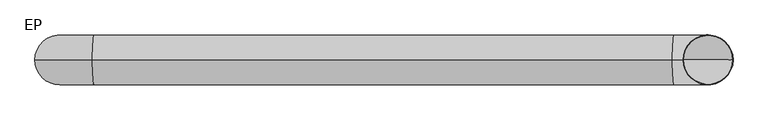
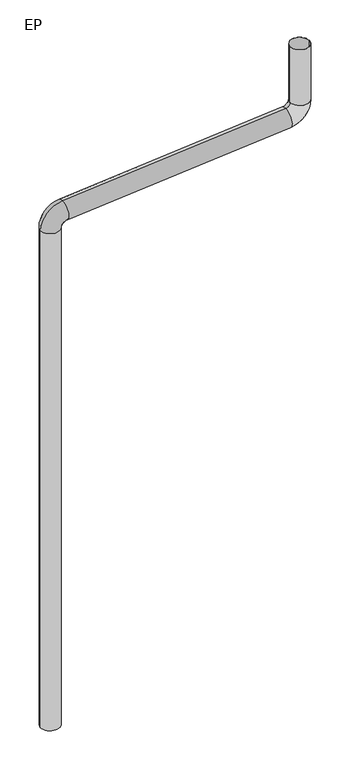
"""IFC4 building model written with IfcOpenShell, lengths in millimetres: flow terminal geometry, Descente Eau pluviale : EP."""

from ifc_helpers import new_model, si_unit, point, frame, origin, place, context, project, spatial, polyline, circle_curve, ellipse_curve, trimmed, source, transform, mapped, element, save
from ifc_brep_helpers import plane_surface, cylinder_surface, revolved_surface, advanced_brep


def ep_bece9a1e(model_context):
    return source(origin(), model_context, "Body", "AdvancedBrep", [
        advanced_brep(
        [(40.0, 300.0, 870000.0), (-40.0, 300.0, 870000.0), (39.0, 300.0, 870000.0), (-39.0, 300.0, 870000.0), (-40.0, 300.0, 872184.9680596), (40.0, 300.0, 872184.9680596), (-39.0, 300.0, 872184.9680596), (39.0, 300.0, 872184.9680596), (51.3783769, 300.0, 872284.5957044), (58.2756754, 300.0, 872204.8935886), (51.4645931, 300.0, 872283.599428), (58.1894591, 300.0, 872205.889865), (981.7243246, 300.0, 872365.1064114), (988.6216231, 300.0, 872285.4042956), (981.8105409, 300.0, 872364.110135), (988.5354069, 300.0, 872286.400572), (1000.0, 300.0, 872385.0319404), (1080.0, 300.0, 872385.0319404), (1001.0, 300.0, 872385.0319404), (1079.0, 300.0, 872385.0319404), (1080.0, 300.0, 872630.0), (1000.0, 300.0, 872630.0), (1079.0, 300.0, 872630.0), (1001.0, 300.0, 872630.0)],
        [
            (0, 1, circle_curve(frame((0.0, 300.0, 870000.0), z_axis=(0.0, 0.0, -1.0), x_axis=(-1.0, 0.0, 0.0)), 40.0)),
            (1, 0, circle_curve(frame((0.0, 300.0, 870000.0), z_axis=(0.0, 0.0, -1.0), x_axis=(-1.0, 0.0, 0.0)), 40.0)),
            (2, 3, circle_curve(frame((0.0, 300.0, 870000.0), z_axis=(0.0, 0.0, 1.0), x_axis=(-1.0, 0.0, 0.0)), 39.0)),
            (3, 2, circle_curve(frame((0.0, 300.0, 870000.0), z_axis=(0.0, 0.0, 1.0), x_axis=(-1.0, 0.0, 0.0)), 39.0)),
            (1, 4),
            (4, 5, circle_curve(frame((0.0, 300.0, 872184.9680596), z_axis=(0.0, 0.0, -1.0), x_axis=(-1.0, 0.0, 0.0)), 40.0)),
            (5, 0),
            (5, 4, circle_curve(frame((0.0, 300.0, 872184.9680596), z_axis=(0.0, 0.0, -1.0), x_axis=(-1.0, 0.0, 0.0)), 40.0)),
            (3, 6),
            (6, 7, circle_curve(frame((0.0, 300.0, 872184.9680596), z_axis=(0.0, 0.0, 1.0), x_axis=(-1.0, 0.0, 0.0)), 39.0)),
            (7, 2),
            (7, 6, circle_curve(frame((0.0, 300.0, 872184.9680596), z_axis=(0.0, 0.0, 1.0), x_axis=(-1.0, 0.0, 0.0)), 39.0)),
            (8, 9, circle_curve(frame((54.8270261, 300.0, 872244.7446465), z_axis=(-0.9962764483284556, 0.0, -0.08621623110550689), x_axis=(-0.08621623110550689, 0.0, 0.9962764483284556)), 40.0)),
            (9, 5, circle_curve(frame((60.0, 300.0, 872184.9680596), z_axis=(0.0, -1.0, 0.0), x_axis=(-1.0, 0.0, 0.0)), 20.0)),
            (4, 8, circle_curve(frame((60.0, 300.0, 872184.9680596), z_axis=(0.0, 1.0, 0.0), x_axis=(-1.0, 0.0, 0.0)), 100.0)),
            (9, 8, circle_curve(frame((54.8270261, 300.0, 872244.7446465), z_axis=(-0.9962764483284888, 0.0, -0.08621623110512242), x_axis=(-0.08621623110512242, 0.0, 0.9962764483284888)), 40.0)),
            (10, 11, circle_curve(frame((54.8270261, 300.0, 872244.7446465), z_axis=(0.996276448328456, 0.0, 0.08621623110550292), x_axis=(-0.08621623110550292, 0.0, 0.996276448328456)), 39.0)),
            (11, 7, circle_curve(frame((60.0, 300.0, 872184.9680596), z_axis=(0.0, -1.0, 0.0), x_axis=(-1.0, 0.0, 0.0)), 21.0)),
            (6, 10, circle_curve(frame((60.0, 300.0, 872184.9680596), z_axis=(0.0, 1.0, 0.0), x_axis=(-1.0, 0.0, 0.0)), 99.0)),
            (11, 10, circle_curve(frame((54.8270261, 300.0, 872244.7446465), z_axis=(0.9962764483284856, 0.0, 0.08621623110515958), x_axis=(-0.08621623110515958, 0.0, 0.9962764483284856)), 39.0)),
            (8, 12),
            (12, 13, circle_curve(frame((985.1729739, 300.0, 872325.2553535), z_axis=(-0.996276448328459, 0.0, -0.08621623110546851), x_axis=(-0.08621623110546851, 0.0, 0.996276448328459)), 40.0)),
            (13, 9),
            (13, 12, circle_curve(frame((985.1729739, 300.0, 872325.2553535), z_axis=(-0.996276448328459, 0.0, -0.08621623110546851), x_axis=(-0.08621623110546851, 0.0, 0.996276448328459)), 40.0)),
            (10, 14),
            (14, 15, circle_curve(frame((985.1729739, 300.0, 872325.2553535), z_axis=(0.996276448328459, 0.0, 0.08621623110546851), x_axis=(-0.08621623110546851, 0.0, 0.996276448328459)), 39.0)),
            (15, 11),
            (15, 14, circle_curve(frame((985.1729739, 300.0, 872325.2553535), z_axis=(0.996276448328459, 0.0, 0.08621623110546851), x_axis=(-0.08621623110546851, 0.0, 0.996276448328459)), 39.0)),
            (16, 17, circle_curve(frame((1040.0, 300.0, 872385.0319404), z_axis=(0.0, 0.0, -1.0), x_axis=(-1.0, 0.0, 0.0)), 40.0)),
            (17, 13, circle_curve(frame((980.0, 300.0, 872385.0319404), z_axis=(0.0, 1.0, 0.0), x_axis=(0.08621623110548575, 0.0, -0.9962764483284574)), 100.0)),
            (12, 16, circle_curve(frame((980.0, 300.0, 872385.0319404), z_axis=(0.0, -1.0, 0.0), x_axis=(0.08621623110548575, 0.0, -0.9962764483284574)), 20.0)),
            (17, 16, circle_curve(frame((1040.0, 300.0, 872385.0319404), z_axis=(0.0, 0.0, -1.0), x_axis=(-1.0, 0.0, 0.0)), 40.0)),
            (18, 19, circle_curve(frame((1040.0, 300.0, 872385.0319404), z_axis=(2.2726404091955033e-12, 0.0, 1.0), x_axis=(-1.0, 0.0, 2.2726404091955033e-12)), 39.0)),
            (19, 15, circle_curve(frame((980.0, 300.0, 872385.0319404), z_axis=(0.0, 1.0, 0.0), x_axis=(0.08621623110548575, 0.0, -0.9962764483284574)), 99.0)),
            (14, 18, circle_curve(frame((980.0, 300.0, 872385.0319404), z_axis=(0.0, -1.0, 0.0), x_axis=(0.08621623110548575, 0.0, -0.9962764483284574)), 21.0)),
            (19, 18, circle_curve(frame((1040.0, 300.0, 872385.0319404), z_axis=(0.0, 0.0, 1.0), x_axis=(-1.0, 0.0, 0.0)), 39.0)),
            (20, 21, circle_curve(frame((1040.0, 300.0, 872630.0), z_axis=(0.0, 0.0, 1.0), x_axis=(-1.0, 0.0, 0.0)), 40.0)),
            (21, 20, circle_curve(frame((1040.0, 300.0, 872630.0), z_axis=(0.0, 0.0, 1.0), x_axis=(-1.0, 0.0, 0.0)), 40.0)),
            (22, 23, circle_curve(frame((1040.0, 300.0, 872630.0), z_axis=(0.0, 0.0, -1.0), x_axis=(-1.0, 0.0, 0.0)), 39.0)),
            (23, 22, circle_curve(frame((1040.0, 300.0, 872630.0), z_axis=(0.0, 0.0, -1.0), x_axis=(-1.0, 0.0, 0.0)), 39.0)),
            (16, 21),
            (20, 17),
            (18, 23),
            (22, 19),
        ],
        [
            plane_surface(frame((0.0, 300.0, 870000.0), z_axis=(0.0, 0.0, -1.0), x_axis=(0.0, 1.0, 0.0))),
            cylinder_surface(frame((0.0, 300.0, 870000.0), z_axis=(0.0, 0.0, -1.0), x_axis=(-1.0, 0.0, 0.0)), 40.0),
            revolved_surface(polyline([(-39.0, 300.0, 872184.9680596), (-39.0, 300.0, 870000.0)]), (0.0, 300.0, 870000.0), (0.0, 0.0, 1.0)),
            revolved_surface(trimmed(ellipse_curve(frame((0.0, 300.0, 872184.9680596), z_axis=(0.0, 0.0, 1.0), x_axis=(-1.0, 0.0, 0.0)), 40.0, 40.0), [point((40.0, 300.0, 872184.9680596))], [point((-40.0, 300.0, 872184.9680596))], True, "CARTESIAN"), (60.0, 300.0, 872184.9680596), (0.0, -1.0, 0.0)),
            revolved_surface(trimmed(ellipse_curve(frame((0.0, 300.0, 872184.9680596), z_axis=(0.0, 0.0, 1.0), x_axis=(-1.0, 0.0, 0.0)), 40.0, 40.0), [point((-40.0, 300.0, 872184.9680596))], [point((40.0, 300.0, 872184.9680596))], True, "CARTESIAN"), (60.0, 300.0, 872184.9680596), (0.0, -1.0, 0.0)),
            revolved_surface(trimmed(ellipse_curve(frame((0.0, 300.0, 872184.9680596), z_axis=(0.0, 0.0, -1.0), x_axis=(-1.0, 0.0, 0.0)), 39.0, 39.0), [point((39.0, 300.0, 872184.9680596))], [point((-39.0, 300.0, 872184.9680596))], True, "CARTESIAN"), (60.0, 300.0, 872184.9680596), (0.0, -1.0, 0.0)),
            revolved_surface(trimmed(ellipse_curve(frame((0.0, 300.0, 872184.9680596), z_axis=(0.0, 0.0, -1.0), x_axis=(-1.0, 0.0, 0.0)), 39.0, 39.0), [point((-39.0, 300.0, 872184.9680596))], [point((39.0, 300.0, 872184.9680596))], True, "CARTESIAN"), (60.0, 300.0, 872184.9680596), (0.0, -1.0, 0.0)),
            cylinder_surface(frame((54.8270261, 300.0, 872244.7446465), z_axis=(-0.996276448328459, 0.0, -0.08621623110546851), x_axis=(-0.08621623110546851, 0.0, 0.996276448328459)), 40.0),
            revolved_surface(polyline([(981.8105408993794, 300.0, 872364.1101350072), (51.464593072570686, 300.0, 872283.5994279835)]), (54.8270261, 300.0, 872244.7446465), (0.996276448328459, 0.0, 0.08621623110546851)),
            revolved_surface(trimmed(ellipse_curve(frame((985.1729739, 300.0, 872325.2553535), z_axis=(0.9962764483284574, 0.0, 0.08621623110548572), x_axis=(-0.08621623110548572, 0.0, 0.9962764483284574)), 40.0, 40.0), [point((988.6216231, 300.0, 872285.4042956))], [point((981.7243246, 300.0, 872365.1064114))], True, "CARTESIAN"), (980.0, 300.0, 872385.0319404), (0.0, 1.0, 0.0)),
            revolved_surface(trimmed(ellipse_curve(frame((985.1729739, 300.0, 872325.2553535), z_axis=(0.9962764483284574, 0.0, 0.08621623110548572), x_axis=(-0.08621623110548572, 0.0, 0.9962764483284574)), 40.0, 40.0), [point((981.7243246, 300.0, 872365.1064114))], [point((988.6216231, 300.0, 872285.4042956))], True, "CARTESIAN"), (980.0, 300.0, 872385.0319404), (0.0, 1.0, 0.0)),
            revolved_surface(trimmed(ellipse_curve(frame((985.1729739, 300.0, 872325.2553535), z_axis=(-0.9962764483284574, 0.0, -0.08621623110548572), x_axis=(-0.08621623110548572, 0.0, 0.9962764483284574)), 39.0, 39.0), [point((988.5354069, 300.0, 872286.400572))], [point((981.8105409, 300.0, 872364.110135))], True, "CARTESIAN"), (980.0, 300.0, 872385.0319404), (0.0, 1.0, 0.0)),
            revolved_surface(trimmed(ellipse_curve(frame((985.1729739, 300.0, 872325.2553535), z_axis=(-0.9962764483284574, 0.0, -0.08621623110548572), x_axis=(-0.08621623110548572, 0.0, 0.9962764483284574)), 39.0, 39.0), [point((981.8105409, 300.0, 872364.110135))], [point((988.5354069, 300.0, 872286.400572))], True, "CARTESIAN"), (980.0, 300.0, 872385.0319404), (0.0, 1.0, 0.0)),
            plane_surface(frame((1040.0, 300.0, 872630.0), z_axis=(0.0, 0.0, 1.0), x_axis=(0.0, 1.0, 0.0))),
            cylinder_surface(frame((1040.0, 300.0, 872385.0319404), z_axis=(0.0, 0.0, -1.0), x_axis=(-1.0, 0.0, 0.0)), 40.0),
            revolved_surface(polyline([(1001.0, 300.0, 872630.0), (1001.0, 300.0, 872385.0319403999)]), (1040.0, 300.0, 872385.0319404), (0.0, 0.0, 1.0)),
            revolved_surface(polyline([(1001.0, 300.0, 872630.0), (1001.0, 300.0, 872385.0319404)]), (1040.0, 300.0, 872385.0319404), (0.0, 0.0, 1.0)),
        ],
        [
            (0, [[1, 2], [3, 4]]),
            (1, [[5, 6, 7, -2]]),
            (1, [[-7, 8, -5, -1]]),
            (2, [[9, 10, 11, -4]]),
            (2, [[-11, 12, -9, -3]]),
            (3, [[13, 14, -6, 15]]),
            (4, [[16, -15, -8, -14]]),
            (5, [[17, 18, -10, 19]]),
            (6, [[20, -19, -12, -18]]),
            (7, [[21, 22, 23, -13]]),
            (7, [[-23, 24, -21, -16]]),
            (8, [[25, 26, 27, -17]]),
            (8, [[-27, 28, -25, -20]]),
            (9, [[29, 30, -22, 31]]),
            (10, [[32, -31, -24, -30]]),
            (11, [[33, 34, -26, 35]]),
            (12, [[36, -35, -28, -34]]),
            (13, [[37, 38], [39, 40]]),
            (14, [[41, -37, 42, -29]]),
            (14, [[-42, -38, -41, -32]]),
            (15, [[43, -39, 44, -33]]),
            (16, [[-44, -40, -43, -36]]),
        ],
    ),
    ])


if __name__ == "__main__":
    model = new_model("IFC4")
    model_context = context("Model", 3, world=origin())
    ifc_project = project(units=[si_unit("LENGTHUNIT", "METRE", prefix="MILLI")], contexts=[model_context])
    site = spatial("IfcSite", under=ifc_project)
    building = spatial("IfcBuilding", under=site)
    placement = place(None, origin())
    ep_shape = ep_bece9a1e(model_context)
    element("IfcFlowTerminal", 1, ObjectType="Descente Eau pluviale : EP", at=placement, inside=building, context=model_context, shape_type="MappedRepresentation", body=[
        mapped(ep_shape, transform((0.0, 0.0, 0.0), x_axis=(1.0, 0.0, 0.0), y_axis=(0.0, 1.0, 0.0), z_axis=(0.0, 0.0, 1.0))),
    ])
    save(model, "model.ifc")
